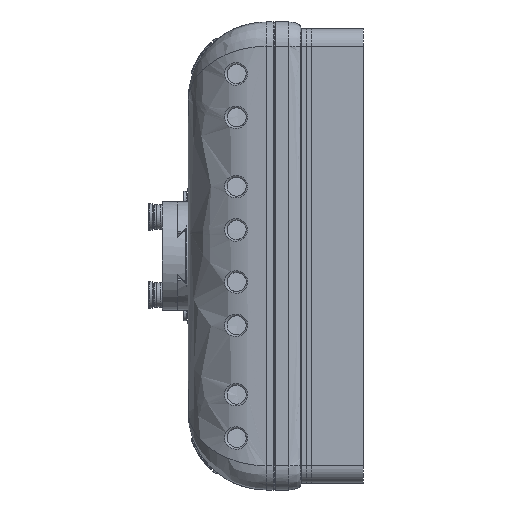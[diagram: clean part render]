
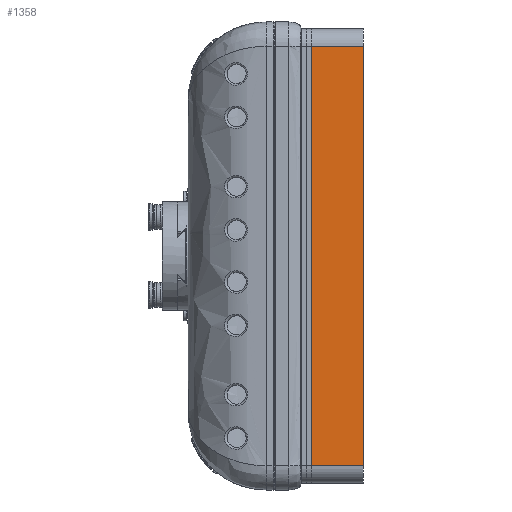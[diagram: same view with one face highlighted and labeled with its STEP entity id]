
A CAD part, left-side view. The second image highlights one B-rep face of the part: STEP entity #1358.
In plain terms, the highlighted planar face has unit normal (-1, 0, 0).
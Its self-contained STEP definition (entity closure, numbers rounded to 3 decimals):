
#1358 = ADVANCED_FACE ( 'NONE', ( #16815 ), #31675, .F. ) ;
#7432 = CARTESIAN_POINT ( 'NONE',  ( -181., -6., 121. ) ) ;
#10882 = VECTOR ( 'NONE', #90711, 1000. ) ;
#12205 = LINE ( 'NONE', #41421, #39126 ) ;
#16815 = FACE_OUTER_BOUND ( 'NONE', #37650, .T. ) ;
#23141 = LINE ( 'NONE', #31262, #94741 ) ;
#25575 = VECTOR ( 'NONE', #81314, 1000. ) ;
#25882 = CARTESIAN_POINT ( 'NONE',  ( -181., -36., -121. ) ) ;
#27226 = VERTEX_POINT ( 'NONE', #7432 ) ;
#29597 = LINE ( 'NONE', #58765, #25575 ) ;
#31262 = CARTESIAN_POINT ( 'NONE',  ( -181., -36., -121. ) ) ;
#31675 = PLANE ( 'NONE',  #57396 ) ;
#33646 = LINE ( 'NONE', #61478, #10882 ) ;
#35049 = ORIENTED_EDGE ( 'NONE', *, *, #83395, .T. ) ;
#37650 = EDGE_LOOP ( 'NONE', ( #35049, #93801, #93239, #54692 ) ) ;
#38265 = CARTESIAN_POINT ( 'NONE',  ( -181., -36., -121. ) ) ;
#39126 = VECTOR ( 'NONE', #80049, 1000. ) ;
#40265 = DIRECTION ( 'NONE',  ( 0., 0., 1. ) ) ;
#41421 = CARTESIAN_POINT ( 'NONE',  ( -181., -36., -121. ) ) ;
#45161 = DIRECTION ( 'NONE',  ( 0., 1., 0. ) ) ;
#47469 = EDGE_CURVE ( 'NONE', #72469, #27226, #29597, .T. ) ;
#52076 = CARTESIAN_POINT ( 'NONE',  ( -181., -36., 121. ) ) ;
#54692 = ORIENTED_EDGE ( 'NONE', *, *, #47469, .T. ) ;
#57396 = AXIS2_PLACEMENT_3D ( 'NONE', #25882, #76638, #40265 ) ;
#58765 = CARTESIAN_POINT ( 'NONE',  ( -181., -36., 121. ) ) ;
#59198 = CARTESIAN_POINT ( 'NONE',  ( -181., -6., -121. ) ) ;
#61478 = CARTESIAN_POINT ( 'NONE',  ( -181., -6., -121. ) ) ;
#72469 = VERTEX_POINT ( 'NONE', #52076 ) ;
#73862 = EDGE_CURVE ( 'NONE', #75356, #84680, #23141, .T. ) ;
#75356 = VERTEX_POINT ( 'NONE', #38265 ) ;
#76638 = DIRECTION ( 'NONE',  ( 1., 0., 0. ) ) ;
#78692 = EDGE_CURVE ( 'NONE', #72469, #75356, #12205, .T. ) ;
#80049 = DIRECTION ( 'NONE',  ( 0., 0., -1. ) ) ;
#81314 = DIRECTION ( 'NONE',  ( 0., 1., 0. ) ) ;
#83395 = EDGE_CURVE ( 'NONE', #27226, #84680, #33646, .T. ) ;
#84680 = VERTEX_POINT ( 'NONE', #59198 ) ;
#90711 = DIRECTION ( 'NONE',  ( 0., 0., -1. ) ) ;
#93239 = ORIENTED_EDGE ( 'NONE', *, *, #78692, .F. ) ;
#93801 = ORIENTED_EDGE ( 'NONE', *, *, #73862, .F. ) ;
#94741 = VECTOR ( 'NONE', #45161, 1000. ) ;
